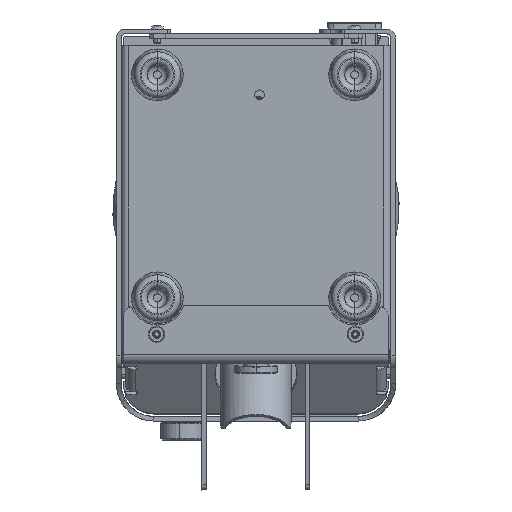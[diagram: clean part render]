
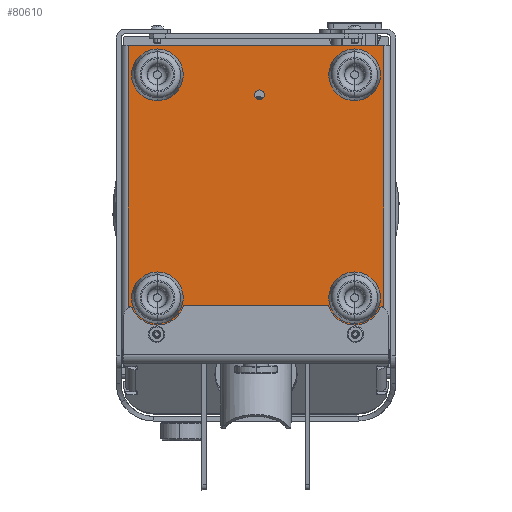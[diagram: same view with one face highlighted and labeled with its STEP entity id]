
A CAD part, front view. The second image highlights one B-rep face of the part: STEP entity #80610.
In plain terms, the highlighted planar face has unit normal (0, -1, 0) as drawn and (0, 0, -1) by its records, which use the part's own axes.
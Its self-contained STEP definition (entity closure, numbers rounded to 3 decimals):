
#166 = DIRECTION ( 'NONE',  ( 0., 1., 0. ) ) ;
#1454 = EDGE_CURVE ( 'NONE', #57221, #95938, #97491, .T. ) ;
#2334 = CARTESIAN_POINT ( 'NONE',  ( -54.4, 1., 0. ) ) ;
#4157 = CARTESIAN_POINT ( 'NONE',  ( -39.634, 65.332, 0. ) ) ;
#7599 = CARTESIAN_POINT ( 'NONE',  ( 0., 66.5, 0. ) ) ;
#9988 = CIRCLE ( 'NONE', #62447, 2.05 ) ;
#10524 = CARTESIAN_POINT ( 'NONE',  ( 44.966, 54.668, 0. ) ) ;
#11337 = VERTEX_POINT ( 'NONE', #54558 ) ;
#12025 = ORIENTED_EDGE ( 'NONE', *, *, #123691, .F. ) ;
#12529 = LINE ( 'NONE', #13187, #104782 ) ;
#13187 = CARTESIAN_POINT ( 'NONE',  ( 0., -63., 0. ) ) ;
#17297 = VERTEX_POINT ( 'NONE', #27294 ) ;
#17397 = ORIENTED_EDGE ( 'NONE', *, *, #48997, .F. ) ;
#18036 = EDGE_CURVE ( 'NONE', #127314, #118561, #101071, .T. ) ;
#23562 = EDGE_LOOP ( 'NONE', ( #80852, #85148, #52041, #94473 ) ) ;
#26551 = VERTEX_POINT ( 'NONE', #42976 ) ;
#27294 = CARTESIAN_POINT ( 'NONE',  ( -39.634, 60., 0. ) ) ;
#28067 = CARTESIAN_POINT ( 'NONE',  ( 44.966, 60., 0. ) ) ;
#28912 = CARTESIAN_POINT ( 'NONE',  ( 39.634, 60., 0. ) ) ;
#30581 = DIRECTION ( 'NONE',  ( 0., -1., 0. ) ) ;
#31447 = DIRECTION ( 'NONE',  ( 0., 0., 1. ) ) ;
#33106 = CIRCLE ( 'NONE', #77127, 2.05 ) ;
#34937 = ORIENTED_EDGE ( 'NONE', *, *, #82940, .F. ) ;
#37940 = CARTESIAN_POINT ( 'NONE',  ( 44.966, 65.332, 0. ) ) ;
#40021 = FACE_BOUND ( 'NONE', #111047, .T. ) ;
#40710 = CARTESIAN_POINT ( 'NONE',  ( 39.634, 54.668, 0. ) ) ;
#41998 = VECTOR ( 'NONE', #30581, 1000. ) ;
#42719 = VECTOR ( 'NONE', #47625, 1000. ) ;
#42857 = CARTESIAN_POINT ( 'NONE',  ( -39.634, 54.668, 0. ) ) ;
#42976 = CARTESIAN_POINT ( 'NONE',  ( 3.55, -42., 0. ) ) ;
#43347 = VECTOR ( 'NONE', #166, 1000. ) ;
#44191 = CARTESIAN_POINT ( 'NONE',  ( -39.634, 60., 0. ) ) ;
#44981 = DIRECTION ( 'NONE',  ( 0., 0., -1. ) ) ;
#47625 = DIRECTION ( 'NONE',  ( -1., 0., 0. ) ) ;
#48563 = FACE_BOUND ( 'NONE', #85950, .T. ) ;
#48997 = EDGE_CURVE ( 'NONE', #17297, #81705, #84617, .T. ) ;
#49391 = LINE ( 'NONE', #99248, #43347 ) ;
#52041 = ORIENTED_EDGE ( 'NONE', *, *, #73183, .F. ) ;
#54558 = CARTESIAN_POINT ( 'NONE',  ( -0.55, -42., 0. ) ) ;
#57221 = VERTEX_POINT ( 'NONE', #100666 ) ;
#57909 = ORIENTED_EDGE ( 'NONE', *, *, #118633, .F. ) ;
#59690 = DIRECTION ( 'NONE',  ( 1., 0., 0. ) ) ;
#60672 = CARTESIAN_POINT ( 'NONE',  ( 39.634, 60., 0. ) ) ;
#60832 = CARTESIAN_POINT ( 'NONE',  ( -54.4, -63., 0. ) ) ;
#62447 = AXIS2_PLACEMENT_3D ( 'NONE', #104640, #44981, #85021 ) ;
#67365 =( BOUNDED_CURVE ( )  B_SPLINE_CURVE ( 3, ( #73104, #113071, #4157, #44191 ),
 .UNSPECIFIED., .F., .F. ) 
 B_SPLINE_CURVE_WITH_KNOTS ( ( 4, 4 ),
 ( 0., 0.5 ),
 .UNSPECIFIED. ) 
 CURVE ( )  GEOMETRIC_REPRESENTATION_ITEM ( )  RATIONAL_B_SPLINE_CURVE ( ( 1., 0.333, 0.333, 1. ) ) 
 REPRESENTATION_ITEM ( '' )  );
#70857 = PLANE ( 'NONE',  #127681 ) ;
#73104 = CARTESIAN_POINT ( 'NONE',  ( -44.966, 60., 0. ) ) ;
#73183 = EDGE_CURVE ( 'NONE', #95938, #127050, #121739, .T. ) ;
#73584 = DIRECTION ( 'NONE',  ( 1., 0., 0. ) ) ;
#77127 = AXIS2_PLACEMENT_3D ( 'NONE', #89355, #88708, #129360 ) ;
#78410 = EDGE_CURVE ( 'NONE', #11337, #26551, #33106, .T. ) ;
#80610 = ADVANCED_FACE ( 'NONE', ( #48563, #100997, #40021, #109534 ), #70857, .F. ) ;
#80852 = ORIENTED_EDGE ( 'NONE', *, *, #121499, .F. ) ;
#81705 = VERTEX_POINT ( 'NONE', #113052 ) ;
#82053 = EDGE_CURVE ( 'NONE', #127050, #91378, #12529, .T. ) ;
#82940 = EDGE_CURVE ( 'NONE', #81705, #17297, #67365, .T. ) ;
#84617 =( BOUNDED_CURVE ( )  B_SPLINE_CURVE ( 3, ( #92719, #42857, #122874, #95939 ),
 .UNSPECIFIED., .F., .T. ) 
 B_SPLINE_CURVE_WITH_KNOTS ( ( 4, 4 ),
 ( 0.5, 1. ),
 .UNSPECIFIED. ) 
 CURVE ( )  GEOMETRIC_REPRESENTATION_ITEM ( )  RATIONAL_B_SPLINE_CURVE ( ( 1., 0.333, 0.333, 1. ) ) 
 REPRESENTATION_ITEM ( '' )  );
#85021 = DIRECTION ( 'NONE',  ( 1., 0., 0. ) ) ;
#85148 = ORIENTED_EDGE ( 'NONE', *, *, #82053, .F. ) ;
#85950 = EDGE_LOOP ( 'NONE', ( #57909, #118576 ) ) ;
#87382 = CARTESIAN_POINT ( 'NONE',  ( 54.4, -63., 0. ) ) ;
#88708 = DIRECTION ( 'NONE',  ( 0., 0., -1. ) ) ;
#89355 = CARTESIAN_POINT ( 'NONE',  ( 1.5, -42., 0. ) ) ;
#89822 = EDGE_LOOP ( 'NONE', ( #12025, #113168 ) ) ;
#91378 = VERTEX_POINT ( 'NONE', #87382 ) ;
#92719 = CARTESIAN_POINT ( 'NONE',  ( -39.634, 60., 0. ) ) ;
#93384 =( BOUNDED_CURVE ( )  B_SPLINE_CURVE ( 3, ( #118167, #10524, #40710, #28912 ),
 .UNSPECIFIED., .F., .T. ) 
 B_SPLINE_CURVE_WITH_KNOTS ( ( 4, 4 ),
 ( 0.5, 1. ),
 .UNSPECIFIED. ) 
 CURVE ( )  GEOMETRIC_REPRESENTATION_ITEM ( )  RATIONAL_B_SPLINE_CURVE ( ( 1., 0.333, 0.333, 1. ) ) 
 REPRESENTATION_ITEM ( '' )  );
#94473 = ORIENTED_EDGE ( 'NONE', *, *, #1454, .F. ) ;
#95938 = VERTEX_POINT ( 'NONE', #97024 ) ;
#95939 = CARTESIAN_POINT ( 'NONE',  ( -44.966, 60., 0. ) ) ;
#97024 = CARTESIAN_POINT ( 'NONE',  ( -54.4, 66.5, 0. ) ) ;
#97491 = LINE ( 'NONE', #7599, #42719 ) ;
#99248 = CARTESIAN_POINT ( 'NONE',  ( 54.4, 1., 0. ) ) ;
#100666 = CARTESIAN_POINT ( 'NONE',  ( 54.4, 66.5, 0. ) ) ;
#100997 = FACE_BOUND ( 'NONE', #89822, .T. ) ;
#101071 =( BOUNDED_CURVE ( )  B_SPLINE_CURVE ( 3, ( #111148, #117305, #37940, #28067 ),
 .UNSPECIFIED., .F., .T. ) 
 B_SPLINE_CURVE_WITH_KNOTS ( ( 4, 4 ),
 ( 0., 0.5 ),
 .UNSPECIFIED. ) 
 CURVE ( )  GEOMETRIC_REPRESENTATION_ITEM ( )  RATIONAL_B_SPLINE_CURVE ( ( 1., 0.333, 0.333, 1. ) ) 
 REPRESENTATION_ITEM ( '' )  );
#104640 = CARTESIAN_POINT ( 'NONE',  ( 1.5, -42., 0. ) ) ;
#104782 = VECTOR ( 'NONE', #73584, 1000. ) ;
#109534 = FACE_OUTER_BOUND ( 'NONE', #23562, .T. ) ;
#111047 = EDGE_LOOP ( 'NONE', ( #17397, #34937 ) ) ;
#111148 = CARTESIAN_POINT ( 'NONE',  ( 39.634, 60., 0. ) ) ;
#113052 = CARTESIAN_POINT ( 'NONE',  ( -44.966, 60., 0. ) ) ;
#113071 = CARTESIAN_POINT ( 'NONE',  ( -44.966, 65.332, 0. ) ) ;
#113168 = ORIENTED_EDGE ( 'NONE', *, *, #78410, .F. ) ;
#117305 = CARTESIAN_POINT ( 'NONE',  ( 39.634, 65.332, 0. ) ) ;
#118167 = CARTESIAN_POINT ( 'NONE',  ( 44.966, 60., 0. ) ) ;
#118561 = VERTEX_POINT ( 'NONE', #124306 ) ;
#118576 = ORIENTED_EDGE ( 'NONE', *, *, #18036, .F. ) ;
#118633 = EDGE_CURVE ( 'NONE', #118561, #127314, #93384, .T. ) ;
#121499 = EDGE_CURVE ( 'NONE', #91378, #57221, #49391, .T. ) ;
#121739 = LINE ( 'NONE', #2334, #41998 ) ;
#122874 = CARTESIAN_POINT ( 'NONE',  ( -44.966, 54.668, 0. ) ) ;
#123691 = EDGE_CURVE ( 'NONE', #26551, #11337, #9988, .T. ) ;
#124306 = CARTESIAN_POINT ( 'NONE',  ( 44.966, 60., 0. ) ) ;
#127050 = VERTEX_POINT ( 'NONE', #60832 ) ;
#127314 = VERTEX_POINT ( 'NONE', #60672 ) ;
#127681 = AXIS2_PLACEMENT_3D ( 'NONE', #128602, #31447, #59690 ) ;
#128602 = CARTESIAN_POINT ( 'NONE',  ( 0., 1., 0. ) ) ;
#129360 = DIRECTION ( 'NONE',  ( 1., 0., 0. ) ) ;
